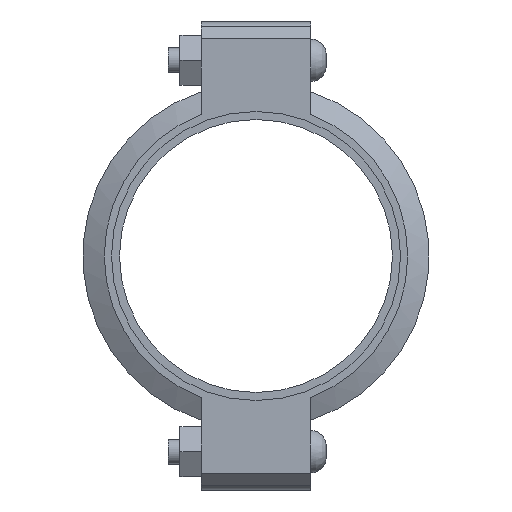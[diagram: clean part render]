
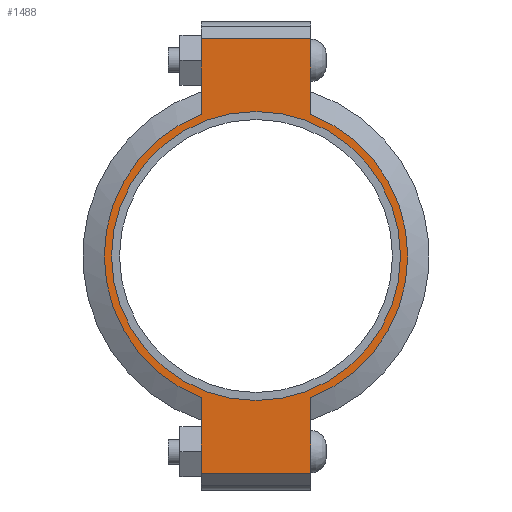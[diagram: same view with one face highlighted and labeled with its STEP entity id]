
A CAD part, left-side view. The second image highlights one B-rep face of the part: STEP entity #1488.
In plain terms, the highlighted planar face has unit normal (-1, 0, 0) as drawn and (0, 0, 1) by its records, which use the part's own axes.
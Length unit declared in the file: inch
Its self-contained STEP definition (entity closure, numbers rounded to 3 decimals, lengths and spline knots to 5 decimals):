
#168=LINE('',#2563,#259);
#176=LINE('',#2599,#267);
#183=LINE('',#2620,#274);
#192=LINE('',#2652,#283);
#193=LINE('',#2656,#284);
#194=LINE('',#2658,#285);
#259=VECTOR('',#2069,0.3937);
#267=VECTOR('',#2085,0.3937);
#274=VECTOR('',#2104,0.3937);
#283=VECTOR('',#2129,0.3937);
#284=VECTOR('',#2134,0.3937);
#285=VECTOR('',#2135,0.3937);
#337=FACE_BOUND('',#497,.T.);
#401=FACE_OUTER_BOUND('',#496,.T.);
#496=EDGE_LOOP('',(#1223,#1224,#1225,#1226,#1227,#1228,#1229,#1230));
#497=EDGE_LOOP('',(#1231));
#594=CIRCLE('',#1731,4.53);
#595=CIRCLE('',#1732,4.53);
#596=CIRCLE('',#1733,4.3125);
#699=VERTEX_POINT('',#2560);
#700=VERTEX_POINT('',#2562);
#711=VERTEX_POINT('',#2594);
#712=VERTEX_POINT('',#2598);
#719=VERTEX_POINT('',#2617);
#720=VERTEX_POINT('',#2619);
#730=VERTEX_POINT('',#2655);
#731=VERTEX_POINT('',#2657);
#732=VERTEX_POINT('',#2660);
#863=EDGE_CURVE('',#700,#699,#168,.T.);
#877=EDGE_CURVE('',#712,#711,#176,.T.);
#887=EDGE_CURVE('',#720,#719,#183,.T.);
#902=EDGE_CURVE('',#712,#699,#192,.T.);
#903=EDGE_CURVE('',#711,#720,#594,.T.);
#904=EDGE_CURVE('',#730,#719,#193,.T.);
#905=EDGE_CURVE('',#730,#731,#194,.T.);
#906=EDGE_CURVE('',#731,#700,#595,.T.);
#907=EDGE_CURVE('',#732,#732,#596,.T.);
#1223=ORIENTED_EDGE('',*,*,#902,.F.);
#1224=ORIENTED_EDGE('',*,*,#877,.T.);
#1225=ORIENTED_EDGE('',*,*,#903,.T.);
#1226=ORIENTED_EDGE('',*,*,#887,.T.);
#1227=ORIENTED_EDGE('',*,*,#904,.F.);
#1228=ORIENTED_EDGE('',*,*,#905,.T.);
#1229=ORIENTED_EDGE('',*,*,#906,.T.);
#1230=ORIENTED_EDGE('',*,*,#863,.T.);
#1231=ORIENTED_EDGE('',*,*,#907,.T.);
#1342=PLANE('',#1730);
#1488=ADVANCED_FACE('',(#401,#337),#1342,.T.);
#1730=AXIS2_PLACEMENT_3D('',#2653,#2130,#2131);
#1731=AXIS2_PLACEMENT_3D('',#2654,#2132,#2133);
#1732=AXIS2_PLACEMENT_3D('',#2659,#2136,#2137);
#1733=AXIS2_PLACEMENT_3D('',#2661,#2138,#2139);
#2069=DIRECTION('',(-1.,0.,0.));
#2085=DIRECTION('',(1.,0.,0.));
#2104=DIRECTION('',(1.,0.,0.));
#2129=DIRECTION('',(0.,1.,0.));
#2130=DIRECTION('center_axis',(0.,0.,1.));
#2131=DIRECTION('ref_axis',(1.,0.,0.));
#2132=DIRECTION('center_axis',(0.,0.,1.));
#2133=DIRECTION('ref_axis',(-1.,0.,0.));
#2134=DIRECTION('',(0.,-1.,0.));
#2135=DIRECTION('',(-1.,0.,0.));
#2136=DIRECTION('center_axis',(0.,0.,1.));
#2137=DIRECTION('ref_axis',(-1.,0.,0.));
#2138=DIRECTION('center_axis',(0.,0.,-1.));
#2139=DIRECTION('ref_axis',(-1.,0.,0.));
#2560=CARTESIAN_POINT('',(-6.485,1.63,1.16));
#2562=CARTESIAN_POINT('',(-4.22658,1.63,1.16));
#2563=CARTESIAN_POINT('',(-6.985,1.63,1.16));
#2594=CARTESIAN_POINT('',(-4.22658,-1.63,1.16));
#2598=CARTESIAN_POINT('',(-6.485,-1.63,1.16));
#2599=CARTESIAN_POINT('',(6.985,-1.63,1.16));
#2617=CARTESIAN_POINT('',(6.485,-1.63,1.16));
#2619=CARTESIAN_POINT('',(4.22658,-1.63,1.16));
#2620=CARTESIAN_POINT('',(6.985,-1.63,1.16));
#2652=CARTESIAN_POINT('',(-6.485,0.815,1.16));
#2653=CARTESIAN_POINT('Origin',(0.,0.,
1.16));
#2654=CARTESIAN_POINT('Origin',(0.,0.,1.16));
#2655=CARTESIAN_POINT('',(6.485,1.63,1.16));
#2656=CARTESIAN_POINT('',(6.485,-0.815,1.16));
#2657=CARTESIAN_POINT('',(4.22658,1.63,1.16));
#2658=CARTESIAN_POINT('',(-6.985,1.63,1.16));
#2659=CARTESIAN_POINT('Origin',(0.,0.,1.16));
#2660=CARTESIAN_POINT('',(4.3125,0.,1.16));
#2661=CARTESIAN_POINT('Origin',(0.,0.,1.16));
